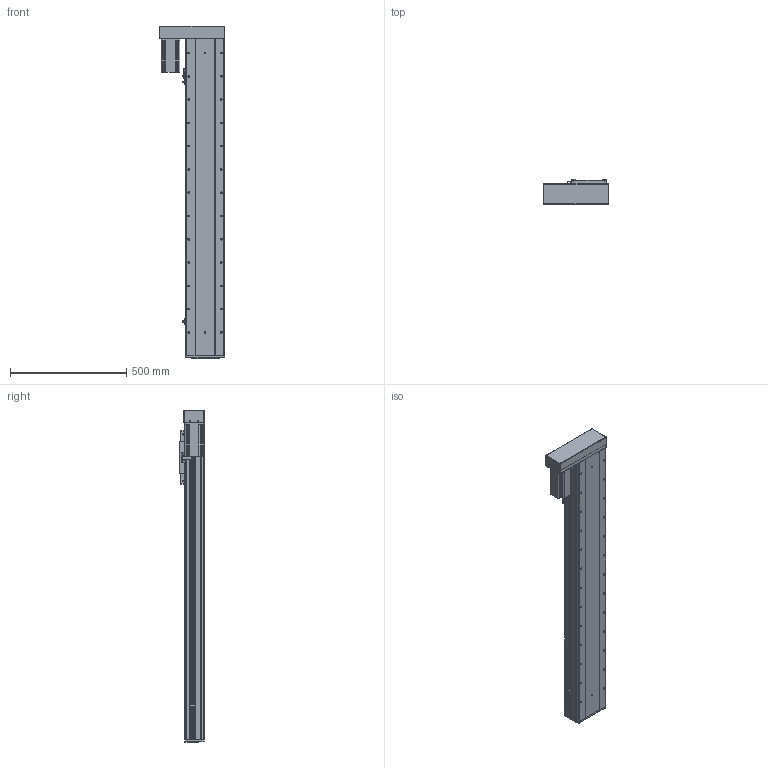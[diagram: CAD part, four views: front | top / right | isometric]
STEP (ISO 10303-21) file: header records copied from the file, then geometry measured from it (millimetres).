
FILE_DESCRIPTION (( 'STEP AP203' ), '1' );
FILE_NAME ('RY170F-L2020-300-LK.SLDASM_1050.step', '2021-03-02T09:00:57', ( '盈信电脑' ), ( '东莞市道滘镇水果街19号' ), 'SwSTEP 2.0', 'SolidWorks 2012', '' );
FILE_SCHEMA (( 'CONFIG_CONTROL_DESIGN' ));
Length unit declared in the file: millimetre
Products named in the file (20): RY170F-蛌殏萇儂假蚾啣; RY170F-L2020-300-LK.SLDASM_1050; 怢湛750W萇儂ㄗ80遺ㄘ; RY170F酘衵殏萇儂欶; RY170F-詩湍揤踡輸; 侐源滅袉蝶; 滅袉蝶18-24; RY170F-酘衵殏萇儂釱; 覜茼ん672; RY170F俋离覜茼え; RY170F-揤踡謫假蚾粣; RY100F-詩湍揤踡謫; RY170F-綴裔啣; 滅袉蝶18-10; RY170F-300眻蟀倰第奻裔啣-LK_1050; RY170F-佪裝臏賑輸20蹟譫; RY170F-丝杆铝滑块连接板; RY170F-300眻蟀倰第菁釱-LK_1050; RY170F-300眻蟀祥凄詩湍-LK_1050; RY170F-滅鳥奻裔
Assembly tree (24 placements, depth 2):
  RY170F-L2020-300-LK.SLDASM_1050
    RY170F-滅鳥奻裔
    RY170F-300眻蟀祥凄詩湍-LK_1050
    RY170F-300眻蟀倰第菁釱-LK_1050
    RY170F-佪裝臏賑輸20蹟譫
    RY170F-丝杆铝滑块连接板
    RY170F-300眻蟀倰第奻裔啣-LK_1050  x2
    滅袉蝶18-10
    RY100F-詩湍揤踡謫
    RY170F-綴裔啣
    覜茼ん672  x3
    RY170F俋离覜茼え
    RY170F-揤踡謫假蚾粣
    RY170F-詩湍揤踡輸  x2
    滅袉蝶18-24
    侐源滅袉蝶  x2
    RY170F-酘衵殏萇儂釱
    RY170F-蛌殏萇儂假蚾啣
    怢湛750W萇儂ㄗ80遺ㄘ
    RY170F酘衵殏萇儂欶
Bounding box: 283 x 107 x 1426 mm (x, y, z)
Volume: 8058349.3 mm3; surface area: 2663773.5 mm2
Topology: 24 solids, 24 shells, 1917 faces, 5302 edges, 3346 vertices
Faces by surface type: cylinder 917, plane 760, cone 232, bspline 8
Entity records: 54947 total; most frequent: CARTESIAN_POINT 11006, DIRECTION 8959, ORIENTED_EDGE 8488, EDGE_CURVE 4244, AXIS2_PLACEMENT_3D 3249, VERTEX_POINT 2766, LINE 2461, VECTOR 2461
